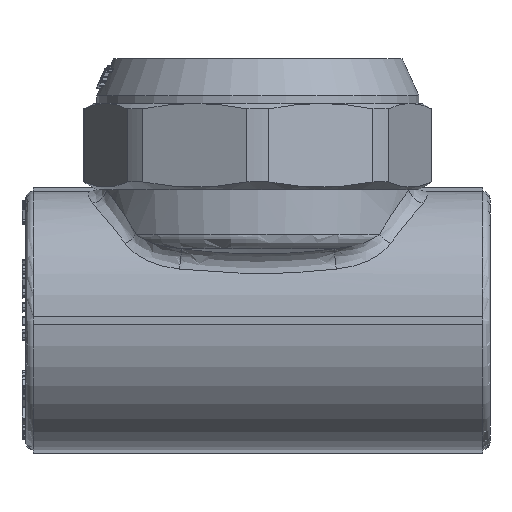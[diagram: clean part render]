
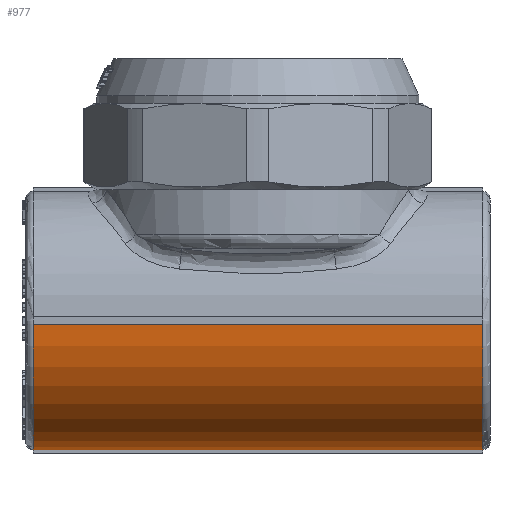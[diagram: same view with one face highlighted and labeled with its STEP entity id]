
A CAD part, left-side view. The second image highlights one B-rep face of the part: STEP entity #977.
In plain terms, the highlighted cylindrical face has radius 17.25 mm (diameter 34.5 mm), a partial arc.
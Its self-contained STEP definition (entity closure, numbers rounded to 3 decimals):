
#977=ADVANCED_FACE('',(#6055),#6057,.T.);
#6055=FACE_BOUND('',#6056,.T.);
#6056=EDGE_LOOP('',(#13048,#13049,#13050,#13051));
#6057=CYLINDRICAL_SURFACE('',#6058,17.25);
#6058=AXIS2_PLACEMENT_3D('',#6059,#6060,#6061);
#6059=CARTESIAN_POINT('',(0.,-31.,0.));
#6060=DIRECTION('',(0.,1.,0.));
#6061=DIRECTION('',(-1.,0.,0.));
#13048=ORIENTED_EDGE('',*,*,#16403,.F.);
#13049=ORIENTED_EDGE('',*,*,#15474,.T.);
#13050=ORIENTED_EDGE('',*,*,#16404,.F.);
#13051=ORIENTED_EDGE('',*,*,#15481,.F.);
#15474=EDGE_CURVE('',#18887,#18885,#18888,.T.);
#15481=EDGE_CURVE('',#18899,#18901,#18902,.T.);
#16403=EDGE_CURVE('',#18887,#18899,#20288,.T.);
#16404=EDGE_CURVE('',#18901,#18885,#20289,.F.);
#18885=VERTEX_POINT('',#28376);
#18887=VERTEX_POINT('',#28381);
#18888=CIRCLE('',#28382,17.25);
#18899=VERTEX_POINT('',#28411);
#18901=VERTEX_POINT('',#28416);
#18902=CIRCLE('',#28417,17.25);
#20288=LINE('',#31854,#31855);
#20289=LINE('',#31857,#31858);
#28376=CARTESIAN_POINT('',(-17.243,-30.,-0.5));
#28381=CARTESIAN_POINT('',(-0.5,-30.,-17.243));
#28382=AXIS2_PLACEMENT_3D('',#28383,#28384,#28385);
#28383=CARTESIAN_POINT('',(0.,-30.,0.));
#28384=DIRECTION('',(0.,1.,0.));
#28385=DIRECTION('',(-0.029,0.,-1.));
#28411=CARTESIAN_POINT('',(-0.5,30.,-17.243));
#28416=CARTESIAN_POINT('',(-17.243,30.,-0.5));
#28417=AXIS2_PLACEMENT_3D('',#28418,#28419,#28420);
#28418=CARTESIAN_POINT('',(0.,30.,0.));
#28419=DIRECTION('',(0.,1.,0.));
#28420=DIRECTION('',(-0.029,0.,-1.));
#31854=CARTESIAN_POINT('',(-0.5,-30.,-17.243));
#31855=VECTOR('',#31856,1.);
#31856=DIRECTION('',(0.,1.,0.));
#31857=CARTESIAN_POINT('',(-17.243,-30.,-0.5));
#31858=VECTOR('',#31859,1.);
#31859=DIRECTION('',(0.,1.,0.));
